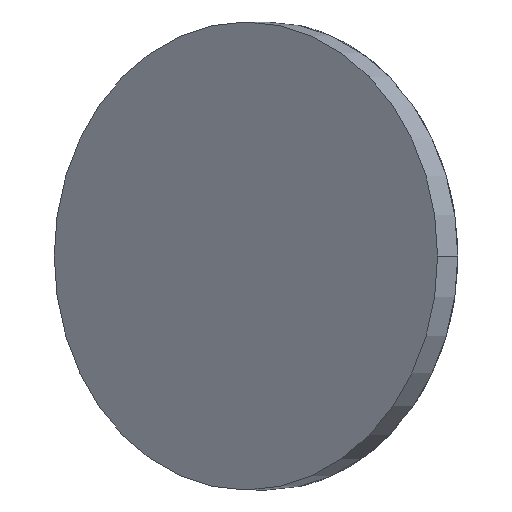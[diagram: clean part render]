
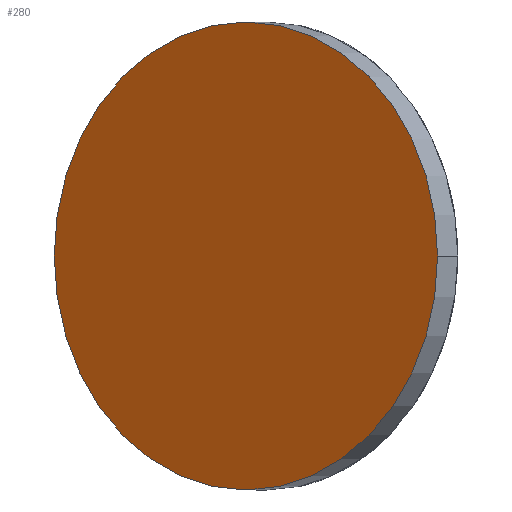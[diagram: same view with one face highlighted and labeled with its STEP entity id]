
A CAD part, front view. The second image highlights one B-rep face of the part: STEP entity #280.
In plain terms, the highlighted planar face has unit normal (-0.574, -0.819, 0).
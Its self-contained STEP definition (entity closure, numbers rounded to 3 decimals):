
#43 = CARTESIAN_POINT ( 'NONE',  ( -1220.377, -1686.63, 0. ) ) ;
#44 = CARTESIAN_POINT ( 'NONE',  ( -1372.74, -1579.945, 0. ) ) ;
#69 = DIRECTION ( 'NONE',  ( -0.819, 0.574, 0. ) ) ;
#71 = AXIS2_PLACEMENT_3D ( 'NONE', #97, #99, #98 ) ;
#88 = CIRCLE ( 'NONE', #109, 93. ) ;
#97 = CARTESIAN_POINT ( 'NONE',  ( -1296.559, -1633.287, 0. ) ) ;
#98 = DIRECTION ( 'NONE',  ( -0.819, 0.574, 0. ) ) ;
#99 = DIRECTION ( 'NONE',  ( 0.574, 0.819, 0. ) ) ;
#107 = DIRECTION ( 'NONE',  ( 0.574, 0.819, 0. ) ) ;
#108 = CARTESIAN_POINT ( 'NONE',  ( -1296.559, -1633.287, 0. ) ) ;
#109 = AXIS2_PLACEMENT_3D ( 'NONE', #108, #107, #69 ) ;
#133 = CIRCLE ( 'NONE', #71, 93. ) ;
#280 = ADVANCED_FACE ( 'NONE', ( #409 ), #404, .T. ) ;
#328 = ORIENTED_EDGE ( 'NONE', *, *, #329, .F. ) ;
#329 = EDGE_CURVE ( 'NONE', #333, #332, #133, .T. ) ;
#332 = VERTEX_POINT ( 'NONE', #44 ) ;
#333 = VERTEX_POINT ( 'NONE', #43 ) ;
#334 = EDGE_LOOP ( 'NONE', ( #335, #328 ) ) ;
#335 = ORIENTED_EDGE ( 'NONE', *, *, #347, .F. ) ;
#347 = EDGE_CURVE ( 'NONE', #332, #333, #88, .T. ) ;
#402 = AXIS2_PLACEMENT_3D ( 'NONE', #423, #422, #421 ) ;
#404 = PLANE ( 'NONE',  #402 ) ;
#409 = FACE_OUTER_BOUND ( 'NONE', #334, .T. ) ;
#421 = DIRECTION ( 'NONE',  ( 0.819, -0.574, 0. ) ) ;
#422 = DIRECTION ( 'NONE',  ( -0.574, -0.819, 0. ) ) ;
#423 = CARTESIAN_POINT ( 'NONE',  ( -1296.559, -1633.287, 0. ) ) ;
